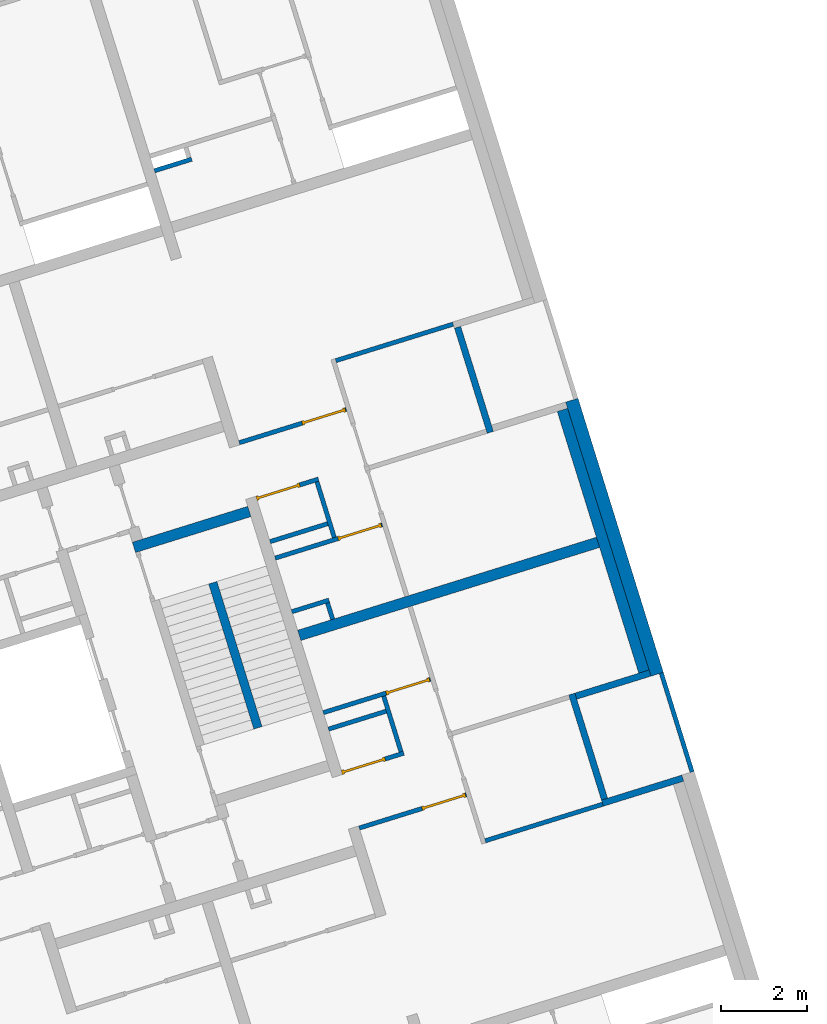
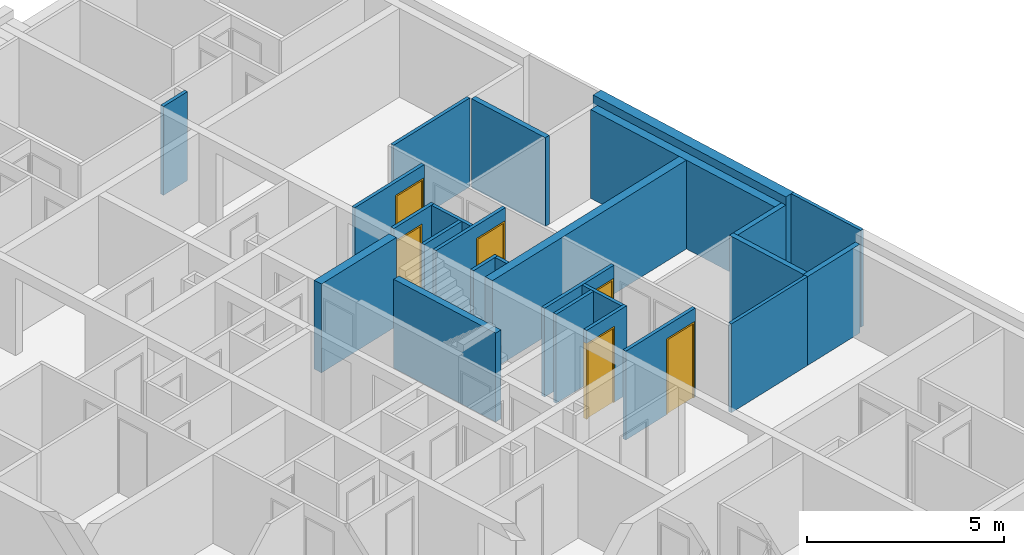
# One storey, part 8 of 12: 25 walls, 6 doors, 6 openings.
"""IFC4 building model written with IfcOpenShell, lengths in metres."""

from ifc_helpers import new_model, entity, si_unit, converted_unit, direction, frame, origin, place, context, subcontext, project, spatial, indexed_curve, outline, extrude, polygons, source, transform, mapped, material, constituent, constituent_set, type_object, type_shapes, element, fill, save


model = new_model("IFC4")

# Units and contexts
model_context = context("Model", 3, precision=1e-05, world=origin(), true_north=direction((6.12323399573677e-17, 1.0)))
body_context = subcontext(model_context, "Body", "Model", "MODEL_VIEW")
ifc_project = project(units=[si_unit("LENGTHUNIT", "METRE"), si_unit("AREAUNIT", "SQUARE_METRE"), si_unit("VOLUMEUNIT", "CUBIC_METRE"), converted_unit("PLANEANGLEUNIT", "DEGREE", entity("IfcPlaneAngleMeasure", 0.0174532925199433), si_unit("PLANEANGLEUNIT", "RADIAN"), dimensions=[0, 0, 0, 0, 0, 0, 0])], contexts=[model_context])

# Site, building, storey
site_placement = place(None, frame((13.1347999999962, 11.9886000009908, 0.0), z_axis=(0.0, 0.0, 1.0), x_axis=(0.954770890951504, 0.297342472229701, 0.0)))
site = spatial("IfcSite", under=ifc_project, at=site_placement, Name="Schiehaven", CompositionType="ELEMENT")
building_placement = place(site_placement, origin())
building = spatial("IfcBuilding", under=site, at=building_placement, Name="VORM huis", CompositionType="ELEMENT")
storey_placement = place(building_placement, frame((0.0, 0.0, 3.9)))
storey = spatial("IfcBuildingStorey", under=building, at=storey_placement, Name="01 eerste verdieping", CompositionType="ELEMENT", Elevation=3.9)

# Walls
ifc_material_1 = material(Name="beton_gewapend_ihw", Category="Miscellaneous")
wall_type_1 = type_object("IfcWallType", Name="Basic Wall:28_WA_skelet_wand 250mm_gen", PredefinedType="STANDARD")
wall_1_placement = place(storey_placement, frame((27.5000000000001, 13.875, 0.0), z_axis=(0.0, 0.0, 1.0), x_axis=(0.0, 1.0, 0.0)))
element("IfcWall", 1, at=wall_1_placement, inside=storey, type_object=wall_type_1, material=ifc_material_1, Name="Constructieve wand", ObjectType="Wand", PredefinedType="NOTDEFINED", context=body_context, shape_type="SweptSolid", body=[
    extrude(outline(indexed_curve([(6.34999999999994, 0.125000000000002), (8.52651282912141e-17, 0.125000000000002), (-8.52651282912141e-17, -0.125000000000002), (6.34999999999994, -0.125000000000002), (6.34999999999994, 0.125000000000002)], self_intersect=False)), origin(), (0.0, 0.0, 1.0), 2.75),
])
ifc_material_2 = material(Name="ntb_ntb_ntb", Category="Miscellaneous")
wall_type_2 = type_object("IfcWallType", Name="Basic Wall: 300mm_gen", PredefinedType="STANDARD")
wall_2_placement = place(storey_placement, frame((27.7750000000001, 13.725, 0.0), z_axis=(0.0, 0.0, 1.0), x_axis=(0.0, 1.0, 0.0)))
element("IfcWall", 2, at=wall_2_placement, inside=storey, type_object=wall_type_2, material=ifc_material_2, Name="Gevelwand", ObjectType="Wand", PredefinedType="NOTDEFINED", context=body_context, shape_type="SweptSolid", body=[
    extrude(outline(indexed_curve([(6.64999999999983, 0.150000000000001), (-2.93106892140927e-16, 0.150000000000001), (2.93106892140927e-16, -0.150000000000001), (6.64999999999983, -0.150000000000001), (6.64999999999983, 0.150000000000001)], self_intersect=False)), origin(), (0.0, 0.0, 1.0), 3.0),
])
ifc_material_3 = material(Name="beton_gewapend_prefab-element", Category="Miscellaneous")
wall_type_3 = type_object("IfcWallType", Name="Basic Wall:28_WA_skelet_wand 200mm_gen", PredefinedType="STANDARD")
wall_3_placement = place(storey_placement, frame((18.5750000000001, 15.29, 0.0), z_axis=(0.0, 0.0, 1.0), x_axis=(0.0, 1.0, 0.0)))
element("IfcWall", 3, at=wall_3_placement, inside=storey, type_object=wall_type_3, material=ifc_material_3, Name="Constructieve wand", ObjectType="Wand", PredefinedType="NOTDEFINED", context=body_context, shape_type="SweptSolid", body=[
    extrude(outline(indexed_curve([(3.52, 0.0999999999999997), (-6.36077049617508e-16, 0.0999999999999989), (6.36077049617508e-16, -0.0999999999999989), (3.52, -0.0999999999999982), (3.52, 0.0999999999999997)], self_intersect=False)), origin(), (0.0, 0.0, 1.0), 2.75),
])
wall_type_4 = type_object("IfcWallType", Name="Basic Wall:22_WA_afbouw_binnenwand 250mm_gen", PredefinedType="STANDARD")
wall_4_placement = place(storey_placement, frame((19.8750000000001, 20.135, 0.0), z_axis=(0.0, 0.0, 1.0), x_axis=(-1.0, 0.0, 0.0)))
element("IfcWall", 4, at=wall_4_placement, inside=storey, type_object=wall_type_4, material=ifc_material_2, Name="Binnenwand", ObjectType="Wand", PredefinedType="NOTDEFINED", context=body_context, shape_type="SweptSolid", body=[
    extrude(outline(indexed_curve([(2.8, 0.125000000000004), (-4.9649652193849e-16, 0.125000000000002), (4.9649652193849e-16, -0.125000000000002), (2.80000000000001, -0.124999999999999), (2.8, 0.125000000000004)], self_intersect=False)), origin(), (0.0, 0.0, 1.0), 2.75),
])
wall_5_placement = place(storey_placement, frame((20.125, 17.05, 0.0)))
element("IfcWall", 5, at=wall_5_placement, inside=storey, type_object=wall_type_4, material=ifc_material_2, Name="Binnenwand", ObjectType="Wand", PredefinedType="NOTDEFINED", context=body_context, shape_type="SweptSolid", body=[
    extrude(outline(indexed_curve([(7.24999999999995, 0.125), (-1.92055213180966e-16, 0.125), (1.92055213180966e-16, -0.125), (7.24999999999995, -0.124999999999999), (7.24999999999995, 0.125)], self_intersect=False)), origin(), (0.0, 0.0, 1.0), 2.75),
])
wall_type_5 = type_object("IfcWallType", Name="Basic Wall:22_WA_afbouw_binnenwand 100mm_gen", PredefinedType="STANDARD")
wall_6_placement = place(storey_placement, frame((20.1250000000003, 28.325, 0.0)))
element("IfcWall", 6, at=wall_6_placement, inside=storey, type_object=wall_type_5, material=ifc_material_2, Name="Binnenwand", ObjectType="Wand", PredefinedType="NOTDEFINED", context=body_context, shape_type="SweptSolid", body=[
    extrude(outline(indexed_curve([(0.899999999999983, 0.0500000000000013), (1.22304197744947e-15, 0.0500000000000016), (-1.22304197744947e-15, -0.0500000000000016), (0.89999999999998, -0.050000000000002), (0.899999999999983, 0.0500000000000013)], self_intersect=False)), origin(), (0.0, 0.0, 1.0), 2.75),
])
wall_7_placement = place(storey_placement, frame((22.8249999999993, 11.225, 0.0)))
element("IfcWall", 7, at=wall_7_placement, inside=storey, type_object=wall_type_5, material=ifc_material_2, Name="Binnenwand", ObjectType="Wand", PredefinedType="NOTDEFINED", context=body_context, shape_type="SweptSolid", body=[
    extrude(outline(indexed_curve([(2.85000000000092, 0.0499999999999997), (4.89860730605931e-16, 0.0499999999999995), (-4.89860730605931e-16, -0.0499999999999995), (2.85000000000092, -0.0499999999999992), (2.85000000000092, 0.0499999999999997)], self_intersect=False)), origin(), (0.0, 0.0, 1.0), 2.75),
])

# Wall, opening, door
wall_8_placement = place(storey_placement, frame((22.7249999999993, 15.175, 0.0), z_axis=(0.0, 0.0, 1.0), x_axis=(-1.0, 0.0, 0.0)))
wall_8 = element("IfcWall", 8, at=wall_8_placement, inside=storey, type_object=wall_type_5, material=ifc_material_2, Name="Binnenwand", ObjectType="Wand", PredefinedType="NOTDEFINED", context=body_context, shape_type="Tessellation", body=[
    polygons([(1.07500000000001, -0.0500000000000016, 2.34999999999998), (1.07500000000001, -0.0500000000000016, -5.41433564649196e-16), (2.59999999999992, -0.0499999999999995, -5.41433564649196e-16), (2.59999999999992, -0.0499999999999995, 2.75), (3.35306260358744e-15, -0.0499999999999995, 2.75), (3.35306260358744e-15, -0.0499999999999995, -5.41433564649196e-16), (0.0250000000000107, -0.0499999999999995, -5.41433564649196e-16), (0.0250000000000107, -0.0499999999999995, 2.34999999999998), (2.59999999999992, 0.0499999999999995, -5.41433564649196e-16), (1.2, 0.0499999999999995, 0.0), (1.1, 0.0499999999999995, 0.0), (1.07500000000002, 0.0499999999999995, -5.41433564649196e-16), (1.07500000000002, 0.0499999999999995, 2.34999999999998), (0.0250000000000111, 0.0499999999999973, 2.34999999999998), (0.0250000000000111, 0.0499999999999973, -5.41433564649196e-16), (-5.45233935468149e-16, 0.0499999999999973, -5.41433564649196e-16), (-5.45233935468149e-16, 0.0499999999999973, 2.75), (1.1, 0.0499999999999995, 2.75), (1.2, 0.0499999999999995, 2.75), (2.59999999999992, 0.0499999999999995, 2.75)], [[[1, 2, 3, 4, 5, 6, 7, 8]], [[9, 10, 11, 12, 13, 14, 15, 16, 17, 18, 19, 20]], [[7, 6, 16, 15]], [[4, 3, 9, 20]], [[5, 4, 20, 19, 18, 17]], [[15, 14, 8, 7]], [[13, 12, 2, 1]], [[14, 13, 1, 8]], [[6, 5, 17, 16]], [[3, 2, 12, 11, 10, 9]]], closed=True),
])
opening_1_placement = place(wall_8_placement, frame((0.0250000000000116, -0.0500000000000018, 0.0)))
opening_1 = element("IfcOpeningElement", 9, at=opening_1_placement, cuts=wall_8, Name="Binnendeur", PredefinedType="OPENING", context=body_context, shape_type="SweptSolid", body=[
    extrude(outline(indexed_curve([(2.34999999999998, 9.5279375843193e-31), (2.34999999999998, 1.05), (0.0, 1.05), (0.0, 9.5279375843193e-31), (2.34999999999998, 9.5279375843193e-31)], self_intersect=False)), frame((0.0, 0.0, 0.0), z_axis=(0.0, 1.0, 0.0), x_axis=(0.0, 0.0, 1.0)), (0.0, 0.0, 1.0), 0.1),
])
ifc_material_4 = material(Name="PD_a_binnenwandopeningen", Category="Miscellaneous")
ifc_constituent_1 = constituent(ifc_material_4, Name="PD_a_binnenwandopeningen", Category="Miscellaneous")
ifc_material_5 = material(Name="metaal_aluminium_ntb", Category="Miscellaneous")
ifc_constituent_2 = constituent(ifc_material_5, Name="metaal_aluminium_ntb", Category="Miscellaneous")
ifc_constituent_set_1 = constituent_set(constituents=[ifc_constituent_1, ifc_constituent_2])
door_type = type_object("IfcDoorType", Name="32_DO_binnendeur enkel:binnendeur", OperationType="REVOLVING", PredefinedType="DOOR")
shared_shape_1 = source(origin(), body_context, "Body", "SweptSolid", [
    extrude(outline(indexed_curve([(0.475, -1.16249999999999), (0.525, -1.16249999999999), (0.525, 1.18749999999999), (-0.525, 1.18749999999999), (-0.525, -1.16249999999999), (-0.475, -1.16249999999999), (-0.475, 1.13749999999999), (0.475, 1.13749999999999), (0.475, -1.16249999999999)], self_intersect=False)), frame((0.525000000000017, 0.100000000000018, 1.16249999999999), z_axis=(0.0, -1.0, 0.0), x_axis=(1.0, 0.0, 0.0)), (0.0, 0.0, 1.0), 0.1),
    extrude(outline(indexed_curve([(-0.475, -0.025), (0.475, -0.025), (0.475, 0.025), (-0.475, 0.025), (-0.475, -0.025)], self_intersect=False)), frame((0.525000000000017, 0.0499999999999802, 0.0)), (0.0, 0.0, 1.0), 2.29999999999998),
])
door_1_placement = place(opening_1_placement, origin())
door_1 = element("IfcDoor", 10, at=door_1_placement, inside=storey, type_object=door_type, material=ifc_constituent_set_1, Name="Binnendeur", ObjectType="Deur", OperationType="REVOLVING", OverallHeight=2.34999999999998, OverallWidth=1.05, PredefinedType="DOOR", context=body_context, shape_type="MappedRepresentation", body=[
    mapped(shared_shape_1, transform((0.0, 0.0, 0.0), scale=1.0)),
])
fill(opening_1, door_1)

# Wall
wall_9_placement = place(storey_placement, frame((21.5749999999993, 15.125, 0.0), z_axis=(0.0, 0.0, 1.0), x_axis=(0.0, -1.0, 0.0)))
element("IfcWall", 11, at=wall_9_placement, inside=storey, type_object=wall_type_5, material=ifc_material_2, Name="Binnenwand", ObjectType="Wand", PredefinedType="NOTDEFINED", context=body_context, shape_type="SweptSolid", body=[
    extrude(outline(indexed_curve([(1.3500000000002, 0.0500000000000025), (2.90008969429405e-16, 0.0500000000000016), (-2.90008969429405e-16, -0.0500000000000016), (1.3500000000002, -0.0500000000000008), (1.3500000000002, 0.0500000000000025)], self_intersect=False)), origin(), (0.0, 0.0, 1.0), 2.75),
])

# Wall, opening, door
wall_10_placement = place(storey_placement, frame((20.1228357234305, 13.7249999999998, 0.0)))
wall_10 = element("IfcWall", 12, at=wall_10_placement, inside=storey, type_object=wall_type_5, material=ifc_material_2, Name="Binnenwand", ObjectType="Wand", PredefinedType="NOTDEFINED", context=body_context, shape_type="Tessellation", body=[
    polygons([(1.50216427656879, -0.0500000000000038, 2.75), (8.71106571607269e-16, -0.0500000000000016, 2.75), (8.71106571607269e-16, -0.0500000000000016, 2.34999999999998), (1.05, -0.0500000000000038, 2.34999999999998), (1.05, -0.0500000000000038, -5.41433564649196e-16), (1.50216427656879, -0.0500000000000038, -5.41433564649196e-16), (1.82770739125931e-15, 0.0499999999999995, 2.75), (1.4021642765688, 0.0499999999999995, 2.75), (1.5021642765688, 0.0499999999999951, 2.75), (1.5021642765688, 0.0499999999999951, -5.41433564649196e-16), (1.4021642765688, 0.0499999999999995, 0.0), (1.05000000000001, 0.0499999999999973, -5.41433564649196e-16), (1.05000000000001, 0.0499999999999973, 2.34999999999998), (1.82770739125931e-15, 0.0499999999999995, 2.34999999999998)], [[[1, 2, 3, 4, 5, 6]], [[7, 8, 9, 10, 11, 12, 13, 14]], [[10, 6, 5, 12, 11]], [[2, 1, 9, 8, 7]], [[2, 7, 14, 3]], [[1, 6, 10, 9]], [[4, 13, 12, 5]], [[13, 4, 3, 14]]], closed=True),
])
opening_2_placement = place(wall_10_placement, frame((1.05, 0.0500000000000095, 0.0)))
opening_2 = element("IfcOpeningElement", 13, at=opening_2_placement, cuts=wall_10, Name="Binnendeur", PredefinedType="OPENING", context=body_context, shape_type="SweptSolid", body=[
    extrude(outline(indexed_curve([(2.34999999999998, 1.31911771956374e-29), (2.34999999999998, 1.05), (0.0, 1.05), (0.0, 1.31911771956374e-29), (2.34999999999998, 1.31911771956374e-29)], self_intersect=False)), frame((0.0, 0.0, 0.0), z_axis=(0.0, -1.0, 0.0), x_axis=(0.0, 0.0, 1.0)), (0.0, 0.0, 1.0), 0.1),
])
ifc_constituent_3 = constituent(ifc_material_4, Name="PD_a_binnenwandopeningen", Category="Miscellaneous")
ifc_constituent_4 = constituent(ifc_material_5, Name="metaal_aluminium_ntb", Category="Miscellaneous")
ifc_constituent_set_2 = constituent_set(constituents=[ifc_constituent_3, ifc_constituent_4])
door_2_placement = place(opening_2_placement, frame((0.0, 0.0, 0.0), z_axis=(0.0, 0.0, 1.0), x_axis=(-1.0, 0.0, 0.0)))
door_2 = element("IfcDoor", 14, at=door_2_placement, inside=storey, type_object=door_type, material=ifc_constituent_set_2, Name="Binnendeur", ObjectType="Deur", OperationType="REVOLVING", OverallHeight=2.34999999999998, OverallWidth=1.05, PredefinedType="DOOR", context=body_context, shape_type="MappedRepresentation", body=[
    mapped(shared_shape_1, transform((0.0, 0.0, 0.0), scale=1.0)),
])
fill(opening_2, door_2)

wall_11_placement = place(storey_placement, frame((22.7249999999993, 12.3749999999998, 0.0), z_axis=(0.0, 0.0, 1.0), x_axis=(-1.0, 0.0, 0.0)))
wall_11 = element("IfcWall", 15, at=wall_11_placement, inside=storey, type_object=wall_type_5, material=ifc_material_2, Name="Binnenwand", ObjectType="Wand", PredefinedType="NOTDEFINED", context=body_context, shape_type="Tessellation", body=[
    polygons([(1.07500000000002, -0.0500000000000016, 2.34999999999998), (1.07500000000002, -0.0500000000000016, 0.0), (2.59999999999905, -0.0499999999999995, 0.0), (2.59999999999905, -0.0499999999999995, 2.75), (-2.59888111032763e-16, -0.0499999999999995, 2.75), (-2.59888111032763e-16, -0.0499999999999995, 0.0), (0.0250000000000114, -0.0499999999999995, 0.0), (0.0250000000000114, -0.0499999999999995, 2.34999999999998), (2.59999999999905, 0.0499999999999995, 0.0), (1.07500000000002, 0.0499999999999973, 0.0), (1.07500000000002, 0.0499999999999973, 2.34999999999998), (0.025000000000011, 0.0499999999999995, 2.34999999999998), (0.025000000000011, 0.0499999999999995, 0.0), (-6.06405592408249e-16, 0.0499999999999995, 0.0), (-6.06405592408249e-16, 0.0499999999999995, 2.75), (2.59999999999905, 0.0499999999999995, 2.75)], [[[1, 2, 3, 4, 5, 6, 7, 8]], [[9, 10, 11, 12, 13, 14, 15, 16]], [[7, 6, 14, 13]], [[4, 3, 9, 16]], [[5, 4, 16, 15]], [[6, 5, 15, 14]], [[13, 12, 8, 7]], [[11, 10, 2, 1]], [[12, 11, 1, 8]], [[3, 2, 10, 9]]], closed=True),
])
opening_3_placement = place(wall_11_placement, frame((1.07500000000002, 0.0499999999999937, 0.0)))
opening_3 = element("IfcOpeningElement", 16, at=opening_3_placement, cuts=wall_11, Name="Binnendeur", PredefinedType="OPENING", context=body_context, shape_type="SweptSolid", body=[
    extrude(outline(indexed_curve([(2.34999999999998, 1.05), (0.0, 1.05), (0.0, -2.40383250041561e-30), (2.34999999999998, -2.40383250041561e-30), (2.34999999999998, 1.05)], self_intersect=False)), frame((0.0, 0.0, 0.0), z_axis=(0.0, -1.0, 0.0), x_axis=(0.0, 0.0, 1.0)), (0.0, 0.0, 1.0), 0.1),
])
ifc_constituent_5 = constituent(ifc_material_4, Name="PD_a_binnenwandopeningen", Category="Miscellaneous")
ifc_constituent_6 = constituent(ifc_material_5, Name="metaal_aluminium_ntb", Category="Miscellaneous")
ifc_constituent_set_3 = constituent_set(constituents=[ifc_constituent_5, ifc_constituent_6])
shared_shape_2 = source(origin(), body_context, "Body", "SweptSolid", [
    extrude(outline(indexed_curve([(-1.16249999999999, -0.525000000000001), (1.18749999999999, -0.525), (1.18749999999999, 0.525), (-1.16249999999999, 0.525), (-1.16249999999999, 0.475), (1.13749999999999, 0.475), (1.13749999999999, -0.475), (-1.16249999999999, -0.475), (-1.16249999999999, -0.525000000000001)], self_intersect=False)), frame((0.525000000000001, 0.0, 1.16249999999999), z_axis=(0.0, 1.0, 0.0), x_axis=(0.0, 0.0, 1.0)), (0.0, 0.0, 1.0), 0.1),
    extrude(outline(indexed_curve([(-0.025, -0.475), (0.025, -0.475), (0.025, 0.475), (-0.025, 0.475), (-0.025, -0.475)], self_intersect=False)), frame((0.525000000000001, 0.0499999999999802, 0.0), z_axis=(0.0, 0.0, 1.0), x_axis=(0.0, 1.0, 0.0)), (0.0, 0.0, 1.0), 2.29999999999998),
])
type_shapes(door_type, [shared_shape_2])
door_3_placement = place(opening_3_placement, frame((0.0, 0.0, 0.0), z_axis=(0.0, 0.0, 1.0), x_axis=(-1.0, 0.0, 0.0)))
door_3 = element("IfcDoor", 17, at=door_3_placement, inside=storey, type_object=door_type, material=ifc_constituent_set_3, Name="Binnendeur", ObjectType="Deur", OperationType="REVOLVING", OverallHeight=2.34999999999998, OverallWidth=1.05, PredefinedType="DOOR", context=body_context, shape_type="MappedRepresentation", body=[
    mapped(shared_shape_2, transform((0.0, 0.0, 0.0), scale=1.0)),
])
fill(opening_3, door_3)

# Walls
wall_12_placement = place(storey_placement, frame((21.5249999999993, 14.7749999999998, 0.0), z_axis=(0.0, 0.0, 1.0), x_axis=(-1.0, 0.0, 0.0)))
element("IfcWall", 18, at=wall_12_placement, inside=storey, type_object=wall_type_5, material=ifc_material_2, Name="Binnenwand", ObjectType="Wand", PredefinedType="NOTDEFINED", context=body_context, shape_type="SweptSolid", body=[
    extrude(outline(indexed_curve([(1.39999999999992, 0.0499999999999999), (2.16585989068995e-16, 0.0499999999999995), (-2.16585989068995e-16, -0.0499999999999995), (1.39999999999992, -0.049999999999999), (1.39999999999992, 0.0499999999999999)], self_intersect=False)), origin(), (0.0, 0.0, 1.0), 2.75),
])
wall_13_placement = place(storey_placement, frame((20.1228357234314, 17.625, 0.0)))
element("IfcWall", 19, at=wall_13_placement, inside=storey, type_object=wall_type_5, material=ifc_material_2, Name="Binnenwand", ObjectType="Wand", PredefinedType="NOTDEFINED", context=body_context, shape_type="SweptSolid", body=[
    extrude(outline(indexed_curve([(0.902164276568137, 0.0499999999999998), (-1.37693188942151e-16, 0.0499999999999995), (1.37693188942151e-16, -0.0499999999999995), (0.902164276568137, -0.0499999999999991), (0.902164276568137, 0.0499999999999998)], self_intersect=False)), origin(), (0.0, 0.0, 1.0), 2.75),
])
wall_14_placement = place(storey_placement, frame((20.9749999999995, 17.575, 0.0), z_axis=(0.0, 0.0, 1.0), x_axis=(0.0, -1.0, 0.0)))
element("IfcWall", 20, at=wall_14_placement, inside=storey, type_object=wall_type_5, material=ifc_material_2, Name="Binnenwand", ObjectType="Wand", PredefinedType="NOTDEFINED", context=body_context, shape_type="SweptSolid", body=[
    extrude(outline(indexed_curve([(0.399999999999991, 0.0500000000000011), (-4.81274279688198e-16, 0.0500000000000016), (4.81274279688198e-16, -0.0500000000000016), (0.399999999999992, -0.0500000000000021), (0.399999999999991, 0.0500000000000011)], self_intersect=False)), origin(), (0.0, 0.0, 1.0), 2.75),
])
wall_15_placement = place(storey_placement, frame((22.8249999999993, 22.875, 0.0)))
element("IfcWall", 21, at=wall_15_placement, inside=storey, type_object=wall_type_5, material=ifc_material_2, Name="Binnenwand", ObjectType="Wand", PredefinedType="NOTDEFINED", context=body_context, shape_type="SweptSolid", body=[
    extrude(outline(indexed_curve([(2.85000000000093, 0.05), (-8.07363201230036e-16, 0.0500000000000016), (8.07363201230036e-16, -0.0500000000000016), (2.85000000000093, -0.0500000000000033), (2.85000000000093, 0.05)], self_intersect=False)), origin(), (0.0, 0.0, 1.0), 2.75),
])

# Wall, opening, door
wall_16_placement = place(storey_placement, frame((22.7249999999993, 18.925, 0.0), z_axis=(0.0, 0.0, 1.0), x_axis=(-1.0, 0.0, 0.0)))
wall_16 = element("IfcWall", 22, at=wall_16_placement, inside=storey, type_object=wall_type_5, material=ifc_material_2, Name="Binnenwand", ObjectType="Wand", PredefinedType="NOTDEFINED", context=body_context, shape_type="Tessellation", body=[
    polygons([(1.07500000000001, -0.0499999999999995, 2.34999999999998), (1.075, -0.0499999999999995, -5.41433564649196e-16), (1.1, -0.0499999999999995, 0.0), (1.2, -0.0499999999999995, 0.0), (2.59999999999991, -0.0499999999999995, -5.41433564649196e-16), (2.59999999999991, -0.0499999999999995, 2.75), (1.2, -0.0499999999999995, 2.75), (1.1, -0.0499999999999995, 2.75), (-8.92449854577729e-16, -0.0499999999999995, 2.75), (-8.92449854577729e-16, -0.0499999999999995, -5.41433564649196e-16), (0.0250000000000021, -0.0499999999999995, -5.41433564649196e-16), (0.0250000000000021, -0.0499999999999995, 2.34999999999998), (2.59999999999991, 0.0499999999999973, -5.41433564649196e-16), (1.075, 0.0499999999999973, -5.41433564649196e-16), (1.07500000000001, 0.0499999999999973, 2.34999999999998), (0.025000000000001, 0.0499999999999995, 2.34999999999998), (0.025000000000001, 0.0499999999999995, -5.41433564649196e-16), (-1.96062677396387e-15, 0.0499999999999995, -5.41433564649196e-16), (-1.96062677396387e-15, 0.0499999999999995, 2.75), (2.59999999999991, 0.0499999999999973, 2.75)], [[[1, 2, 3, 4, 5, 6, 7, 8, 9, 10, 11, 12]], [[13, 14, 15, 16, 17, 18, 19, 20]], [[11, 10, 18, 17]], [[6, 5, 13, 20]], [[9, 8, 7, 6, 20, 19]], [[17, 16, 12, 11]], [[15, 14, 2, 1]], [[16, 15, 1, 12]], [[10, 9, 19, 18]], [[5, 4, 3, 2, 14, 13]]], closed=True),
])
opening_4_placement = place(wall_16_placement, frame((1.07500000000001, 0.0499999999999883, 0.0)))
opening_4 = element("IfcOpeningElement", 23, at=opening_4_placement, cuts=wall_16, Name="Binnendeur", PredefinedType="OPENING", context=body_context, shape_type="SweptSolid", body=[
    extrude(outline(indexed_curve([(2.34999999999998, 1.05), (0.0, 1.05), (0.0, -1.90673722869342e-29), (2.34999999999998, -1.90673722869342e-29), (2.34999999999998, 1.05)], self_intersect=False)), frame((0.0, 0.0, 0.0), z_axis=(0.0, -1.0, 0.0), x_axis=(0.0, 0.0, 1.0)), (0.0, 0.0, 1.0), 0.1),
])
ifc_constituent_7 = constituent(ifc_material_4, Name="PD_a_binnenwandopeningen", Category="Miscellaneous")
ifc_constituent_8 = constituent(ifc_material_5, Name="metaal_aluminium_ntb", Category="Miscellaneous")
ifc_constituent_set_4 = constituent_set(constituents=[ifc_constituent_7, ifc_constituent_8])
door_4_placement = place(opening_4_placement, frame((0.0, 0.0, 0.0), z_axis=(0.0, 0.0, 1.0), x_axis=(-1.0, 0.0, 0.0)))
door_4 = element("IfcDoor", 24, at=door_4_placement, inside=storey, type_object=door_type, material=ifc_constituent_set_4, Name="Binnendeur", ObjectType="Deur", OperationType="REVOLVING", OverallHeight=2.34999999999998, OverallWidth=1.05, PredefinedType="DOOR", context=body_context, shape_type="MappedRepresentation", body=[
    mapped(shared_shape_2, transform((0.0, 0.0, 0.0), scale=1.0)),
])
fill(opening_4, door_4)

# Wall
wall_17_placement = place(storey_placement, frame((21.5749999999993, 18.975, 0.0), z_axis=(0.0, 0.0, 1.0), x_axis=(0.0, 1.0, 0.0)))
element("IfcWall", 25, at=wall_17_placement, inside=storey, type_object=wall_type_5, material=ifc_material_2, Name="Binnenwand", ObjectType="Wand", PredefinedType="NOTDEFINED", context=body_context, shape_type="SweptSolid", body=[
    extrude(outline(indexed_curve([(1.3500000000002, 0.0500000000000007), (-6.07511440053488e-16, 0.0500000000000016), (6.07511440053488e-16, -0.0500000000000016), (1.3500000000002, -0.0500000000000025), (1.3500000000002, 0.0500000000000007)], self_intersect=False)), origin(), (0.0, 0.0, 1.0), 2.75),
])

# Wall, opening, door
wall_18_placement = place(storey_placement, frame((20.1228357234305, 20.3750000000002, 0.0)))
wall_18 = element("IfcWall", 26, at=wall_18_placement, inside=storey, type_object=wall_type_5, material=ifc_material_2, Name="Binnenwand", ObjectType="Wand", PredefinedType="NOTDEFINED", context=body_context, shape_type="Tessellation", body=[
    polygons([(1.50216427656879, -0.0500000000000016, 2.75), (1.40216427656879, -0.0499999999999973, 2.75), (1.36626788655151e-15, -0.0499999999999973, 2.75), (1.36626788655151e-15, -0.0499999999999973, 2.34999999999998), (1.05, -0.0499999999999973, 2.34999999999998), (1.05, -0.0499999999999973, -5.41433564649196e-16), (1.40216427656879, -0.0499999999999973, 0.0), (1.50216427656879, -0.0500000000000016, -5.41433564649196e-16), (-2.25337874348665e-16, 0.0500000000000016, 2.75), (1.50216427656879, 0.0499999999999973, 2.75), (1.50216427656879, 0.0499999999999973, -5.41433564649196e-16), (1.05, 0.050000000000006, -5.41433564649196e-16), (1.05, 0.0500000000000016, 2.34999999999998), (-2.25337874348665e-16, 0.0500000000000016, 2.34999999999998)], [[[1, 2, 3, 4, 5, 6, 7, 8]], [[9, 10, 11, 12, 13, 14]], [[11, 8, 7, 6, 12]], [[3, 2, 1, 10, 9]], [[3, 9, 14, 4]], [[1, 8, 11, 10]], [[5, 13, 12, 6]], [[13, 5, 4, 14]]], closed=True),
])
opening_5_placement = place(wall_18_placement, frame((0.0, -0.0500000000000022, 0.0)))
opening_5 = element("IfcOpeningElement", 27, at=opening_5_placement, cuts=wall_18, Name="Binnendeur", PredefinedType="OPENING", context=body_context, shape_type="SweptSolid", body=[
    extrude(outline(indexed_curve([(2.34999999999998, 1.05), (0.0, 1.05), (0.0, 2.89149311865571e-32), (2.34999999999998, 2.89149311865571e-32), (2.34999999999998, 1.05)], self_intersect=False)), frame((0.0, 0.0, 0.0), z_axis=(0.0, 1.0, 0.0), x_axis=(0.0, 0.0, 1.0)), (0.0, 0.0, 1.0), 0.1),
])
ifc_constituent_9 = constituent(ifc_material_4, Name="PD_a_binnenwandopeningen", Category="Miscellaneous")
ifc_constituent_10 = constituent(ifc_material_5, Name="metaal_aluminium_ntb", Category="Miscellaneous")
ifc_constituent_set_5 = constituent_set(constituents=[ifc_constituent_9, ifc_constituent_10])
door_5_placement = place(opening_5_placement, origin())
door_5 = element("IfcDoor", 28, at=door_5_placement, inside=storey, type_object=door_type, material=ifc_constituent_set_5, Name="Binnendeur", ObjectType="Deur", OperationType="REVOLVING", OverallHeight=2.34999999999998, OverallWidth=1.05, PredefinedType="DOOR", context=body_context, shape_type="MappedRepresentation", body=[
    mapped(shared_shape_2, transform((0.0, 0.0, 0.0), scale=1.0)),
])
fill(opening_5, door_5)

wall_19_placement = place(storey_placement, frame((22.7249999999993, 21.7250000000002, 0.0), z_axis=(0.0, 0.0, 1.0), x_axis=(-1.0, 0.0, 0.0)))
wall_19 = element("IfcWall", 29, at=wall_19_placement, inside=storey, type_object=wall_type_5, material=ifc_material_2, Name="Binnenwand", ObjectType="Wand", PredefinedType="NOTDEFINED", context=body_context, shape_type="Tessellation", body=[
    polygons([(1.07500000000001, -0.0499999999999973, 2.34999999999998), (1.07500000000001, -0.0499999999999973, 0.0), (2.59999999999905, -0.0499999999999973, 0.0), (2.59999999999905, -0.0499999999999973, 2.75), (2.17758514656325e-15, -0.0499999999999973, 2.75), (2.17758514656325e-15, -0.0499999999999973, 0.0), (0.0250000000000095, -0.0499999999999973, 0.0), (0.0250000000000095, -0.0499999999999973, 2.34999999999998), (2.59999999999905, 0.0500000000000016, 0.0), (1.07500000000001, 0.0500000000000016, 0.0), (1.07500000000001, 0.0500000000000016, 2.34999999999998), (0.0250000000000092, 0.0500000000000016, 2.34999999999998), (0.0250000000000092, 0.0500000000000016, 0.0), (1.8890976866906e-15, 0.0500000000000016, 0.0), (1.8890976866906e-15, 0.0500000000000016, 2.75), (2.59999999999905, 0.0500000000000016, 2.75)], [[[1, 2, 3, 4, 5, 6, 7, 8]], [[9, 10, 11, 12, 13, 14, 15, 16]], [[7, 6, 14, 13]], [[4, 3, 9, 16]], [[5, 4, 16, 15]], [[6, 5, 15, 14]], [[13, 12, 8, 7]], [[11, 10, 2, 1]], [[12, 11, 1, 8]], [[3, 2, 10, 9]]], closed=True),
])
opening_6_placement = place(wall_19_placement, frame((0.0250000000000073, -0.0500000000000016, 0.0)))
opening_6 = element("IfcOpeningElement", 30, at=opening_6_placement, cuts=wall_19, Name="Binnendeur", PredefinedType="OPENING", context=body_context, shape_type="SweptSolid", body=[
    extrude(outline(indexed_curve([(2.34999999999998, 0.0), (2.34999999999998, 1.05), (0.0, 1.05), (0.0, 0.0), (2.34999999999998, 0.0)], self_intersect=False)), frame((0.0, 0.0, 0.0), z_axis=(0.0, 1.0, 0.0), x_axis=(0.0, 0.0, 1.0)), (0.0, 0.0, 1.0), 0.1),
])
ifc_constituent_11 = constituent(ifc_material_4, Name="PD_a_binnenwandopeningen", Category="Miscellaneous")
ifc_constituent_12 = constituent(ifc_material_5, Name="metaal_aluminium_ntb", Category="Miscellaneous")
ifc_constituent_set_6 = constituent_set(constituents=[ifc_constituent_11, ifc_constituent_12])
door_6_placement = place(opening_6_placement, origin())
door_6 = element("IfcDoor", 31, at=door_6_placement, inside=storey, type_object=door_type, material=ifc_constituent_set_6, Name="Binnendeur", ObjectType="Deur", OperationType="REVOLVING", OverallHeight=2.34999999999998, OverallWidth=1.05, PredefinedType="DOOR", context=body_context, shape_type="MappedRepresentation", body=[
    mapped(shared_shape_1, transform((0.0, 0.0, 0.0), scale=1.0)),
])
fill(opening_6, door_6)

# Walls
wall_20_placement = place(storey_placement, frame((21.5249999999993, 19.3250000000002, 0.0), z_axis=(0.0, 0.0, 1.0), x_axis=(-1.0, 0.0, 0.0)))
element("IfcWall", 32, at=wall_20_placement, inside=storey, type_object=wall_type_5, material=ifc_material_2, Name="Binnenwand", ObjectType="Wand", PredefinedType="NOTDEFINED", context=body_context, shape_type="SweptSolid", body=[
    extrude(outline(indexed_curve([(1.39999999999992, 0.0499999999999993), (-5.34088459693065e-16, 0.0499999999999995), (5.34088459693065e-16, -0.0499999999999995), (1.39999999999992, -0.0499999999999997), (1.39999999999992, 0.0499999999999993)], self_intersect=False)), origin(), (0.0, 0.0, 1.0), 2.75),
])
wall_type_6 = type_object("IfcWallType", Name="Basic Wall: 150mm_gen", PredefinedType="STANDARD")
wall_21_placement = place(storey_placement, frame((27.6250000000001, 11.25, 0.0), z_axis=(0.0, 0.0, 1.0), x_axis=(-1.0, 0.0, 0.0)))
element("IfcWall", 33, at=wall_21_placement, inside=storey, type_object=wall_type_6, material=ifc_material_2, Name="Gevelwand", ObjectType="Wand", PredefinedType="NOTDEFINED", context=body_context, shape_type="SweptSolid", body=[
    extrude(outline(indexed_curve([(1.95, 0.0749999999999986), (-1.02139304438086e-16, 0.0750000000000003), (1.02139304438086e-16, -0.0750000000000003), (1.95, -0.075000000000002), (1.95, 0.0749999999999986)], self_intersect=False)), origin(), (0.0, 0.0, 1.0), 2.75),
])
wall_22_placement = place(storey_placement, frame((25.7500000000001, 11.325, 0.0), z_axis=(0.0, 0.0, 1.0), x_axis=(0.0, 1.0, 0.0)))
element("IfcWall", 34, at=wall_22_placement, inside=storey, type_object=wall_type_6, material=ifc_material_2, Name="Gevelwand", ObjectType="Wand", PredefinedType="NOTDEFINED", context=body_context, shape_type="SweptSolid", body=[
    extrude(outline(indexed_curve([(2.55, 0.0749999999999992), (-3.51200150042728e-16, 0.0750000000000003), (3.51200150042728e-16, -0.0750000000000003), (2.55000000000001, -0.0750000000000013), (2.55, 0.0749999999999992)], self_intersect=False)), origin(), (0.0, 0.0, 1.0), 2.75),
])
wall_23_placement = place(storey_placement, frame((25.8250000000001, 13.8, 0.0)))
element("IfcWall", 35, at=wall_23_placement, inside=storey, type_object=wall_type_6, material=ifc_material_2, Name="Gevelwand", ObjectType="Wand", PredefinedType="NOTDEFINED", context=body_context, shape_type="SweptSolid", body=[
    extrude(outline(indexed_curve([(1.79999999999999, 0.075), (-3.51200150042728e-16, 0.0750000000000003), (3.51200150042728e-16, -0.0750000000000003), (1.79999999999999, -0.0750000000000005), (1.79999999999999, 0.075)], self_intersect=False)), origin(), (0.0, 0.0, 1.0), 2.75),
])
wall_24_placement = place(storey_placement, frame((25.7500000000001, 22.7749999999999, 0.0), z_axis=(0.0, 0.0, 1.0), x_axis=(0.0, -1.0, 0.0)))
element("IfcWall", 36, at=wall_24_placement, inside=storey, type_object=wall_type_6, material=ifc_material_2, Name="Gevelwand", ObjectType="Wand", PredefinedType="NOTDEFINED", context=body_context, shape_type="SweptSolid", body=[
    extrude(outline(indexed_curve([(2.55, 0.0750000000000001), (1.31948999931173e-16, 0.0750000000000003), (-1.31948999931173e-16, -0.0750000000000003), (2.55, -0.0750000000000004), (2.55, 0.0750000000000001)], self_intersect=False)), origin(), (0.0, 0.0, 1.0), 2.75),
])
wall_type_7 = type_object("IfcWallType", Name="Basic Wall: 100mm_gen", PredefinedType="STANDARD")
wall_25_placement = place(storey_placement, frame((27.8750000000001, 11.325, 0.0), z_axis=(0.0, 0.0, 1.0), x_axis=(0.0, 1.0, 0.0)))
element("IfcWall", 37, at=wall_25_placement, inside=storey, type_object=wall_type_7, material=ifc_material_2, Name="Gevelwand", ObjectType="Wand", PredefinedType="NOTDEFINED", context=body_context, shape_type="SweptSolid", body=[
    extrude(outline(indexed_curve([(2.4, 0.050000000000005), (-1.6016359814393e-16, 0.0500000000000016), (1.6016359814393e-16, -0.0500000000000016), (2.4, -0.0499999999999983), (2.4, 0.050000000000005)], self_intersect=False)), origin(), (0.0, 0.0, 1.0), 3.0),
])

save(model, "model.ifc")
